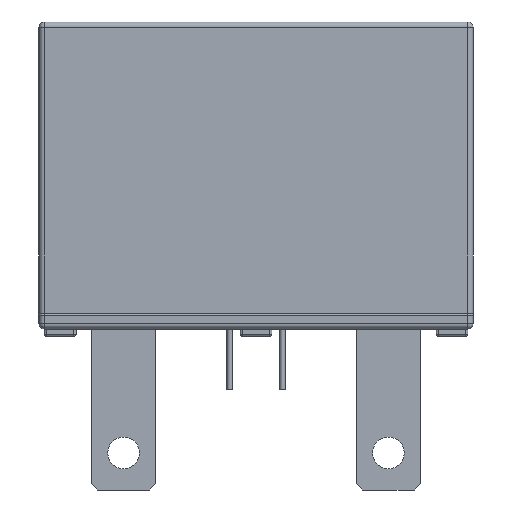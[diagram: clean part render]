
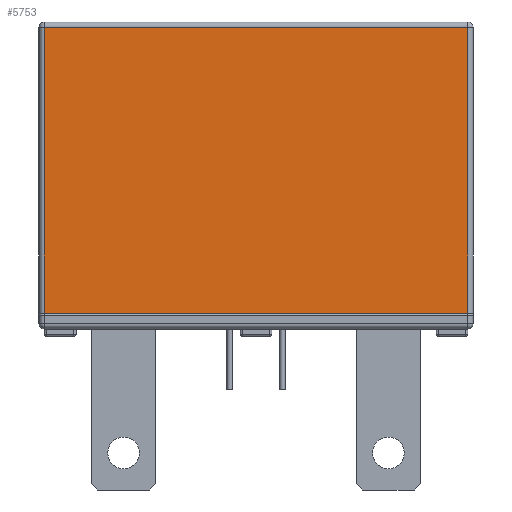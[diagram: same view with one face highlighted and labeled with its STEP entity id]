
A CAD part, front view. The second image highlights one B-rep face of the part: STEP entity #5753.
In plain terms, the highlighted planar face has unit normal (0, -1, 0).
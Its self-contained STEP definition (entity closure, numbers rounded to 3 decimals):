
#979=DIRECTION('',(1.,0.,0.));
#980=VECTOR('',#979,40.);
#981=CARTESIAN_POINT('',(-20.,-11.2,1.5));
#982=LINE('',#981,#980);
#1164=DIRECTION('',(1.,0.,0.));
#1165=VECTOR('',#1164,40.);
#1166=CARTESIAN_POINT('',(-20.,-11.2,28.5));
#1167=LINE('',#1166,#1165);
#1171=DIRECTION('',(0.,0.,1.));
#1172=VECTOR('',#1171,27.);
#1173=CARTESIAN_POINT('',(-20.,-11.2,1.5));
#1174=LINE('',#1173,#1172);
#1202=DIRECTION('',(0.,0.,1.));
#1203=VECTOR('',#1202,27.);
#1204=CARTESIAN_POINT('',(20.,-11.2,1.5));
#1205=LINE('',#1204,#1203);
#4649=CARTESIAN_POINT('',(-20.,-11.2,1.5));
#4650=VERTEX_POINT('',#4649);
#4651=CARTESIAN_POINT('',(20.,-11.2,1.5));
#4652=VERTEX_POINT('',#4651);
#4887=CARTESIAN_POINT('',(-20.,-11.2,28.5));
#4888=VERTEX_POINT('',#4887);
#4891=CARTESIAN_POINT('',(20.,-11.2,28.5));
#4892=VERTEX_POINT('',#4891);
#5740=CARTESIAN_POINT('',(-20.,-11.2,1.5));
#5741=DIRECTION('',(0.,-1.,0.));
#5742=DIRECTION('',(1.,0.,0.));
#5743=AXIS2_PLACEMENT_3D('',#5740,#5741,#5742);
#5744=PLANE('',#5743);
#5746=ORIENTED_EDGE('',*,*,#5745,.T.);
#5748=ORIENTED_EDGE('',*,*,#5747,.F.);
#5749=ORIENTED_EDGE('',*,*,#5521,.F.);
#5750=ORIENTED_EDGE('',*,*,#5732,.T.);
#5751=EDGE_LOOP('',(#5746,#5748,#5749,#5750));
#5752=FACE_OUTER_BOUND('',#5751,.F.);
#5753=ADVANCED_FACE('',(#5752),#5744,.T.);
#5521=EDGE_CURVE('',#4650,#4652,#982,.T.);
#5732=EDGE_CURVE('',#4650,#4888,#1174,.T.);
#5745=EDGE_CURVE('',#4888,#4892,#1167,.T.);
#5747=EDGE_CURVE('',#4652,#4892,#1205,.T.);
